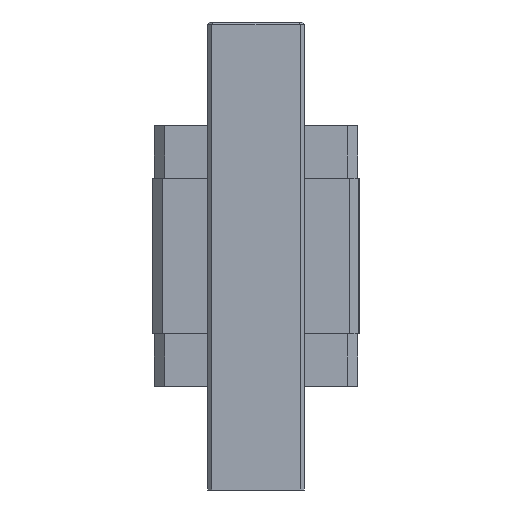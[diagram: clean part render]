
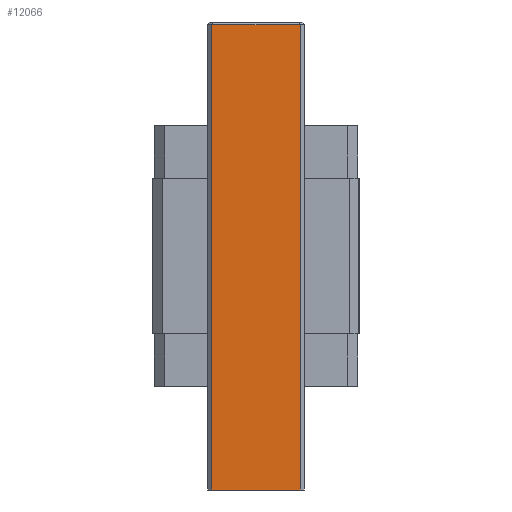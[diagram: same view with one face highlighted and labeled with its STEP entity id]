
A CAD part, front view. The second image highlights one B-rep face of the part: STEP entity #12066.
In plain terms, the highlighted planar face has unit normal (0, -1, 0).
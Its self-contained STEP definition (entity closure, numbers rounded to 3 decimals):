
#11027=DIRECTION('',(1.,0.,0.));
#11028=VECTOR('',#11027,25.6);
#11029=CARTESIAN_POINT('',(-12.8,-16.5,-67.65));
#11030=LINE('',#11029,#11028);
#11300=DIRECTION('',(1.,0.,0.));
#11301=VECTOR('',#11300,25.6);
#11302=CARTESIAN_POINT('',(-12.8,-16.5,66.784));
#11303=LINE('',#11302,#11301);
#11304=DIRECTION('',(0.,0.,1.));
#11305=VECTOR('',#11304,134.434);
#11306=CARTESIAN_POINT('',(-12.8,-16.5,-67.65));
#11307=LINE('',#11306,#11305);
#11312=DIRECTION('',(0.,0.,1.));
#11313=VECTOR('',#11312,134.434);
#11314=CARTESIAN_POINT('',(12.8,-16.5,-67.65));
#11315=LINE('',#11314,#11313);
#11498=CARTESIAN_POINT('',(-12.8,-16.5,-67.65));
#11499=VERTEX_POINT('',#11498);
#11500=CARTESIAN_POINT('',(12.8,-16.5,-67.65));
#11501=VERTEX_POINT('',#11500);
#11562=CARTESIAN_POINT('',(12.8,-16.5,66.784));
#11563=VERTEX_POINT('',#11562);
#11566=CARTESIAN_POINT('',(-12.8,-16.5,66.784));
#11567=VERTEX_POINT('',#11566);
#12054=CARTESIAN_POINT('',(-12.8,-16.5,-67.65));
#12055=DIRECTION('',(0.,-1.,0.));
#12056=DIRECTION('',(1.,0.,0.));
#12057=AXIS2_PLACEMENT_3D('',#12054,#12055,#12056);
#12058=PLANE('',#12057);
#12059=ORIENTED_EDGE('',*,*,#12045,.T.);
#12061=ORIENTED_EDGE('',*,*,#12060,.F.);
#12062=ORIENTED_EDGE('',*,*,#11647,.F.);
#12063=ORIENTED_EDGE('',*,*,#12020,.T.);
#12064=EDGE_LOOP('',(#12059,#12061,#12062,#12063));
#12065=FACE_OUTER_BOUND('',#12064,.F.);
#11647=EDGE_CURVE('',#11499,#11501,#11030,.T.);
#12020=EDGE_CURVE('',#11499,#11567,#11307,.T.);
#12045=EDGE_CURVE('',#11567,#11563,#11303,.T.);
#12060=EDGE_CURVE('',#11501,#11563,#11315,.T.);
#12066=ADVANCED_FACE('',(#12065),#12058,.T.);
